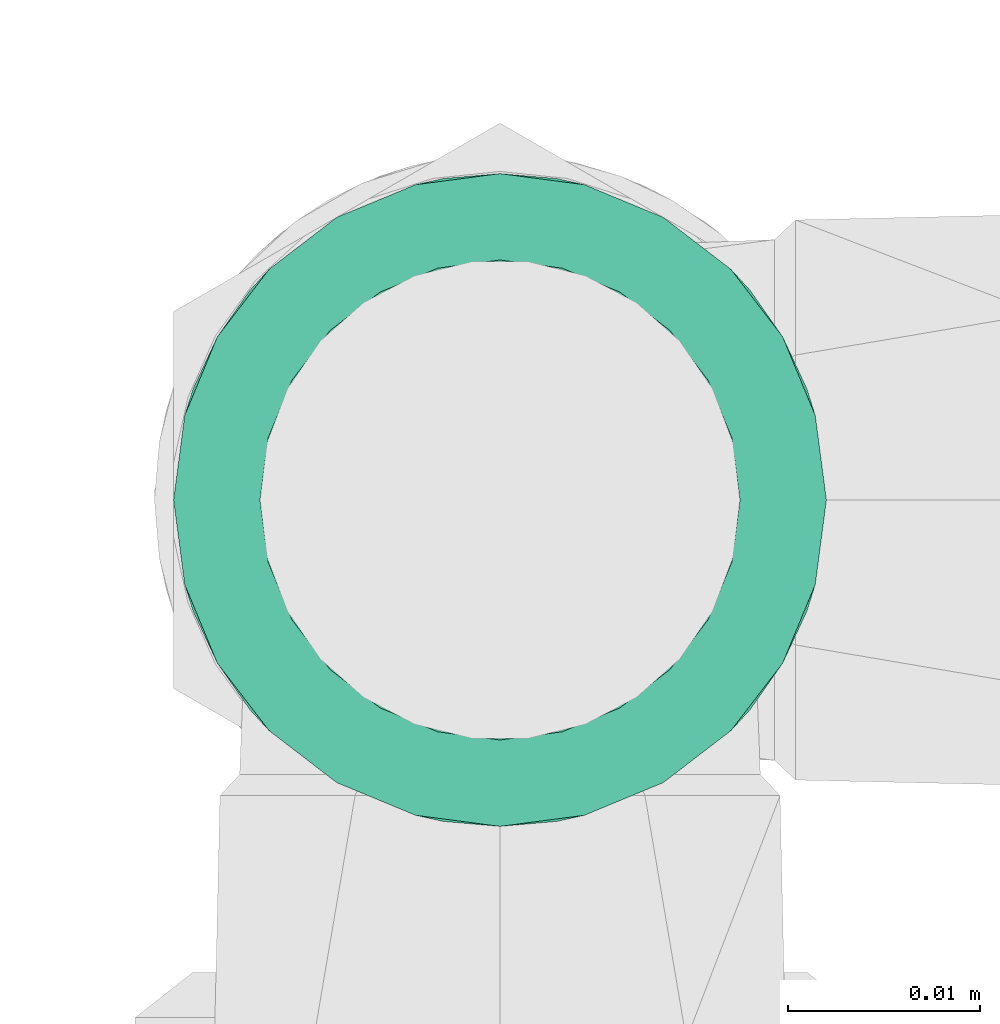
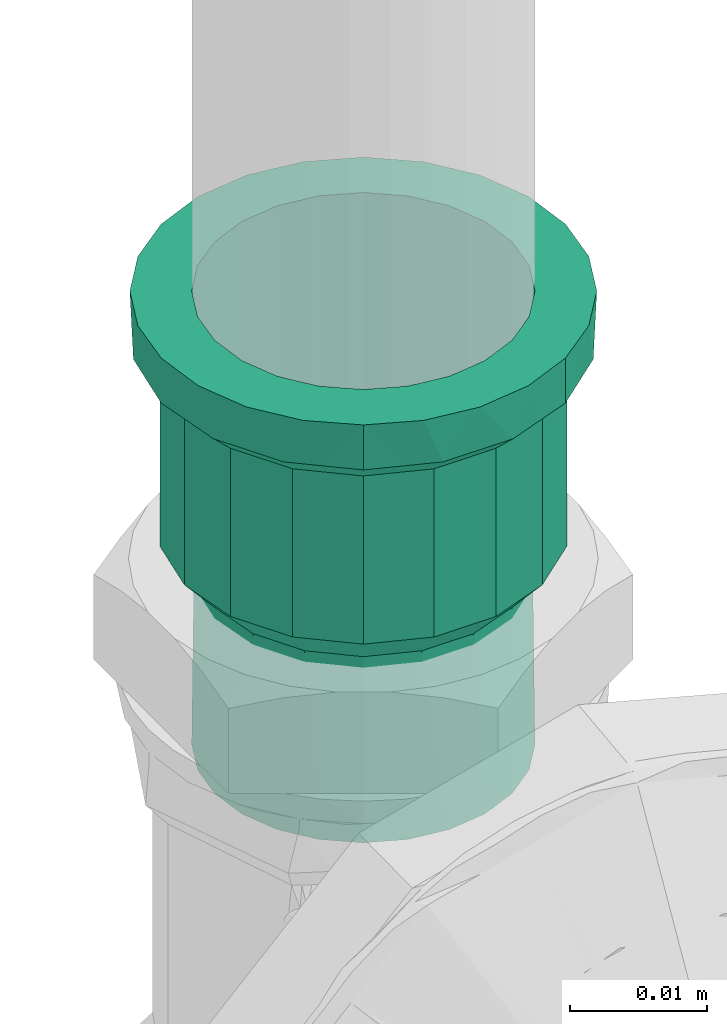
# One storey, part 345 of 589: 1 flow fitting.
"""IFC2X3 building model written with IfcOpenShell, lengths in millimetres."""

from ifc_helpers import new_model, entity, si_unit, converted_unit, derived_unit, direction, frame, origin, place, context, subcontext, project, spatial, faceted_brep, source, transform, mapped, material, type_object, type_shapes, element, save


model = new_model("IFC2X3")

# Units and contexts
model_context = context("Model", 3, precision=0.01, world=origin(), true_north=direction((6.123031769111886e-17, 1.0)))
body_context = subcontext(model_context, "Body", "Model", "MODEL_VIEW")
ifc_project = project(units=[si_unit("LENGTHUNIT", "METRE", prefix="MILLI"), si_unit("AREAUNIT", "SQUARE_METRE"), si_unit("VOLUMEUNIT", "CUBIC_METRE"), converted_unit("PLANEANGLEUNIT", "DEGREE", entity("IfcRatioMeasure", 0.017453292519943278), si_unit("PLANEANGLEUNIT", "RADIAN"), dimensions=[0, 0, 0, 0, 0, 0, 0]), si_unit("MASSUNIT", "GRAM", prefix="KILO"), derived_unit("MASSDENSITYUNIT", [(si_unit("MASSUNIT", "GRAM", prefix="KILO"), 1), (si_unit("LENGTHUNIT", "METRE"), -3)]), derived_unit("IONCONCENTRATIONUNIT", [(si_unit("MASSUNIT", "GRAM", prefix="KILO"), 1), (si_unit("LENGTHUNIT", "METRE"), -3)]), derived_unit("MOMENTOFINERTIAUNIT", [(si_unit("LENGTHUNIT", "METRE"), 4)]), si_unit("TIMEUNIT", "SECOND"), si_unit("FREQUENCYUNIT", "HERTZ"), si_unit("THERMODYNAMICTEMPERATUREUNIT", "DEGREE_CELSIUS"), derived_unit("THERMALTRANSMITTANCEUNIT", [(si_unit("MASSUNIT", "GRAM", prefix="KILO"), 1), (si_unit("THERMODYNAMICTEMPERATUREUNIT", "KELVIN"), -1), (si_unit("TIMEUNIT", "SECOND"), -3)]), derived_unit("THERMALCONDUCTANCEUNIT", [(si_unit("MASSUNIT", "GRAM", prefix="KILO"), 1), (si_unit("THERMODYNAMICTEMPERATUREUNIT", "KELVIN"), -1), (si_unit("TIMEUNIT", "SECOND"), -3), (si_unit("LENGTHUNIT", "METRE"), 1)]), derived_unit("VOLUMETRICFLOWRATEUNIT", [(si_unit("LENGTHUNIT", "METRE"), 3), (si_unit("TIMEUNIT", "SECOND"), -1)]), derived_unit("MASSFLOWRATEUNIT", [(si_unit("MASSUNIT", "GRAM", prefix="KILO"), 1), (si_unit("TIMEUNIT", "SECOND"), -1)]), derived_unit("ROTATIONALFREQUENCYUNIT", [(si_unit("TIMEUNIT", "SECOND"), -1)]), si_unit("ELECTRICCURRENTUNIT", "AMPERE"), si_unit("ELECTRICVOLTAGEUNIT", "VOLT"), si_unit("POWERUNIT", "WATT"), si_unit("FORCEUNIT", "NEWTON", prefix="KILO"), si_unit("ILLUMINANCEUNIT", "LUX"), si_unit("LUMINOUSFLUXUNIT", "LUMEN"), si_unit("LUMINOUSINTENSITYUNIT", "CANDELA"), derived_unit("USERDEFINED", [(si_unit("MASSUNIT", "GRAM", prefix="KILO"), -1), (si_unit("LENGTHUNIT", "METRE"), -2), (si_unit("TIMEUNIT", "SECOND"), 3), (si_unit("LUMINOUSFLUXUNIT", "LUMEN"), 1)]), derived_unit("USERDEFINED", [(si_unit("MASSUNIT", "GRAM", prefix="KILO"), 1), (si_unit("TIMEUNIT", "SECOND"), -3), (si_unit("LENGTHUNIT", "METRE"), 3), (si_unit("ELECTRICCURRENTUNIT", "AMPERE"), -2)]), derived_unit("SOUNDPOWERUNIT", [(si_unit("MASSUNIT", "GRAM", prefix="KILO"), 1), (si_unit("TIMEUNIT", "SECOND"), -3), (si_unit("LENGTHUNIT", "METRE"), 2)]), derived_unit("SOUNDPRESSUREUNIT", [(si_unit("MASSUNIT", "GRAM", prefix="KILO"), 1), (si_unit("LENGTHUNIT", "METRE"), -1), (si_unit("TIMEUNIT", "SECOND"), -2)]), derived_unit("LINEARVELOCITYUNIT", [(si_unit("LENGTHUNIT", "METRE"), 1), (si_unit("TIMEUNIT", "SECOND"), -1)]), si_unit("PRESSUREUNIT", "PASCAL"), derived_unit("USERDEFINED", [(si_unit("MASSUNIT", "GRAM", prefix="KILO"), 1), (si_unit("LENGTHUNIT", "METRE"), -2), (si_unit("TIMEUNIT", "SECOND"), -2)]), derived_unit("LINEARFORCEUNIT", [(si_unit("MASSUNIT", "GRAM", prefix="KILO"), 1), (si_unit("TIMEUNIT", "SECOND"), -2)]), derived_unit("PLANARFORCEUNIT", [(si_unit("MASSUNIT", "GRAM", prefix="KILO"), 1), (si_unit("LENGTHUNIT", "METRE"), -1), (si_unit("TIMEUNIT", "SECOND"), -2)]), derived_unit("SPECIFICHEATCAPACITYUNIT", [(si_unit("THERMODYNAMICTEMPERATUREUNIT", "KELVIN"), -1), (si_unit("LENGTHUNIT", "METRE"), 2), (si_unit("TIMEUNIT", "SECOND"), -2)]), derived_unit("HEATINGVALUEUNIT", [(si_unit("LENGTHUNIT", "METRE"), 2), (si_unit("TIMEUNIT", "SECOND"), -2)]), derived_unit("VAPORPERMEABILITYUNIT", [(si_unit("LENGTHUNIT", "METRE"), -1), (si_unit("TIMEUNIT", "SECOND"), 1)]), derived_unit("DYNAMICVISCOSITYUNIT", [(si_unit("MASSUNIT", "GRAM", prefix="KILO"), 1), (si_unit("TIMEUNIT", "SECOND"), -1), (si_unit("LENGTHUNIT", "METRE"), -1)]), derived_unit("THERMALEXPANSIONCOEFFICIENTUNIT", [(si_unit("THERMODYNAMICTEMPERATUREUNIT", "KELVIN"), -1)]), derived_unit("MODULUSOFELASTICITYUNIT", [(si_unit("MASSUNIT", "GRAM", prefix="KILO"), 1), (si_unit("LENGTHUNIT", "METRE"), -1), (si_unit("TIMEUNIT", "SECOND"), -2)]), derived_unit("ISOTHERMALMOISTURECAPACITYUNIT", [(si_unit("LENGTHUNIT", "METRE"), 3), (si_unit("MASSUNIT", "GRAM", prefix="KILO"), -1)]), derived_unit("MOISTUREDIFFUSIVITYUNIT", [(si_unit("TIMEUNIT", "SECOND"), -1), (si_unit("LENGTHUNIT", "METRE"), 2)])], contexts=[model_context])

# Site, building, storey
site_placement = place(None, origin())
site = spatial("IfcSite", under=ifc_project, at=site_placement, Name="Default", CompositionType="ELEMENT")
building_placement = place(site_placement, origin())
building = spatial("IfcBuilding", under=site, at=building_placement, CompositionType="ELEMENT")
storey_placement = place(building_placement, frame((0.0, 0.0, 100.0)))
storey = spatial("IfcBuildingStorey", under=building, at=storey_placement, Name="TÉRREO", CompositionType="ELEMENT", Elevation=100.0)

# Flow fitting
ifc_material = material(Name="PVC Marrom")
pipe_fitting_type = type_object("IfcPipeFittingType", Name="PVC Marrom Soldável_Adaptador Curto com Bolsa e Rosca Aninhado_Rodrigo MEP:Adaptador", PredefinedType="NOTDEFINED", material=ifc_material)
shared_shape = source(origin(), body_context, "Body", "Brep", [
    faceted_brep([(0.0, -8.500000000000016, -14.72243186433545), (0.0, -12.020815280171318, -12.0208152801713), (0.0, -6.2499999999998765, -10.825317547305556), (0.0, -3.2352380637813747, -12.07407282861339), (0.0, -4.399923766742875, -16.420739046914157), (0.0, -8.838834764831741, -8.83883476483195), (0.0, -14.722431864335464, -8.499999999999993), (0.0, -10.825317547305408, -6.250000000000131), (0.0, -12.074072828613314, -3.2352380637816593), (0.0, -16.42073904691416, -4.399923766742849), (0.0, -12.5, 0.0), (0.0, -17.0, 0.0), (0.0, -12.074072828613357, 3.2352380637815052), (0.0, -16.420739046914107, 4.399923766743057), (0.0, -10.825317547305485, 6.2499999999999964), (0.0, -14.722431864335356, 8.500000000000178), (0.0, -8.83883476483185, 8.838834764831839), (0.0, -12.020815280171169, 12.020815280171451), (0.0, -6.250000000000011, 10.82531754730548), (0.0, -8.499999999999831, 14.722431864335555), (0.0, -3.2352380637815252, 12.07407282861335), (0.0, -4.39992376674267, 16.42073904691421), (0.0, 0.0, 12.5), (0.0, 0.0, 17.0), (0.0, 3.2352380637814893, 12.07407282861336), (0.0, 4.399923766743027, 16.420739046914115), (0.0, 6.24999999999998, 10.825317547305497), (0.0, 8.500000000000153, 14.722431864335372), (0.0, 8.838834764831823, 8.838834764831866), (0.0, 12.020815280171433, 12.020815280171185), (0.0, 10.82531754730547, 6.250000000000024), (0.0, 14.722431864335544, 8.499999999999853), (0.0, 16.42073904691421, 4.399923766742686), (0.0, 12.074072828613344, 3.2352380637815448), (0.0, 17.0, 0.0), (0.0, 12.5, 0.0), (0.0, 16.42073904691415, -4.399923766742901), (0.0, 12.074072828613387, -3.235238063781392), (0.0, 14.722431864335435, -8.500000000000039), (0.0, 10.82531754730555, -6.249999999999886), (0.0, 12.02081528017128, -12.020815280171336), (0.0, 8.838834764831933, -8.838834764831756), (0.0, 8.499999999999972, -14.722431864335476), (0.0, 6.250000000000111, -10.825317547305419), (0.0, 4.399923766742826, -16.42073904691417), (0.0, 3.235238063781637, -12.074072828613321), (0.0, 0.0, -17.0), (0.0, 0.0, -12.5), (4.0, 15.974612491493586, 5.8147876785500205), (4.0, 16.487306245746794, 2.9073938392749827), (4.0, 10.760457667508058, 12.825628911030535), (4.0, 13.022146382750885, 10.928115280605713), (4.0, 14.498379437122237, 8.371451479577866), (4.0, 5.724460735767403, 15.732601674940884), (4.0, 2.9501525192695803, 16.742060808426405), (4.0, 16.599682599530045, 2.2701277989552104), (4.0, 17.0, 0.0), (4.0, 8.498768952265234, 14.723142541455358), (4.0, -8.502461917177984, 14.721010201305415), (4.0, -5.728407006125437, 15.731165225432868), (4.0, -2.954352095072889, 16.74132024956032), (4.0, -13.02488724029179, 10.924848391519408), (4.0, -10.763674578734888, 12.82292929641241), (4.0, -17.0, 0.0), (4.0, -15.976070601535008, 5.8107803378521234), (4.0, -14.5004789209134, 8.367814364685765), (4.0, -0.002099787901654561, 16.741690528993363), (4.0, -15.97607060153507, -5.810780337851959), (4.0, -10.763674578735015, -12.822929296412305), (4.0, -13.024887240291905, -10.92484839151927), (4.0, -14.500478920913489, -8.367814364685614), (4.0, -5.728407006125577, -15.731165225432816), (4.0, -2.9543520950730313, -16.741320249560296), (4.0, -8.502461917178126, -14.721010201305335), (4.0, 16.487306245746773, -2.907393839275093), (4.0, 8.498768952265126, -14.72314254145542), (4.0, 5.724460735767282, -15.732601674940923), (4.0, 2.950152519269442, -16.74206080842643), (4.0, 13.022146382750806, -10.928115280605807), (4.0, 10.760457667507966, -12.825628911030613), (4.0, 15.974612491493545, -5.814787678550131), (4.0, 14.498379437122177, -8.371451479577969), (4.0, -0.002099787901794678, -16.741690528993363), (4.0, 16.599682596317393, -2.270127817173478), (20.85, 14.535973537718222, 2.9149513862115), (20.85, 14.596115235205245, 2.5738986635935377), (20.850000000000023, 15.05, 0.0), (5.900000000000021, 15.05, 0.0), (5.900000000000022, 14.59611523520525, 2.5738986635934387), (5.900000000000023, 14.142230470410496, 5.147797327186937), (20.84999999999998, 14.142230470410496, 5.147797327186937), (20.849999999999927, 9.52616987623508, 11.354453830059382), (20.84999999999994, 11.528429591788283, 9.674596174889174), (5.900000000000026, 11.528429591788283, 9.674596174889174), (5.900000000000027, 9.526169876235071, 11.354453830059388), (5.900000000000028, 7.523910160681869, 13.034311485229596), (20.84999999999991, 7.523910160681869, 13.034311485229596), (20.849999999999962, 12.835330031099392, 7.411196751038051), (5.900000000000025, 12.83533003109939, 7.411196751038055), (20.849999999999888, 2.6117526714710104, 14.821647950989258), (20.849999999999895, 5.067831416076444, 13.927979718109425), (5.900000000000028, 5.067831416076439, 13.927979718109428), (5.900000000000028, 2.6117526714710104, 14.821647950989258), (20.849999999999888, -2.61547053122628, 14.820992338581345), (20.849999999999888, -0.0018589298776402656, 14.821320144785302), (5.900000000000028, -0.0018589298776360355, 14.8213201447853), (5.900000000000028, -2.615470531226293, 14.820992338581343), (20.849999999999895, -5.0713250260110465, 13.926708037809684), (5.900000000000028, -5.071325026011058, 13.92670803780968), (5.900000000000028, -7.527179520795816, 13.032423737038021), (20.849999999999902, -7.527179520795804, 13.032423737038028), (5.900000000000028, -9.52901778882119, 11.35206387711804), (5.900000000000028, -11.530856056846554, 9.671704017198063), (20.84999999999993, -11.530856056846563, 9.671704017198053), (20.849999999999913, -9.529017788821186, 11.352063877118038), (20.849999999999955, -12.837188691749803, 7.407976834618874), (5.900000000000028, -12.837188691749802, 7.407976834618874), (5.900000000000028, -14.143521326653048, 5.144249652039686), (20.849999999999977, -14.143521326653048, 5.144249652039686), (5.900000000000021, -15.05, 0.0), (20.850000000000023, -15.05, 0.0), (20.85000000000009, -14.143521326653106, -5.144249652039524), (5.900000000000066, -14.143521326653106, -5.144249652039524), (20.850000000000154, -7.527179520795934, -13.032423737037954), (20.85000000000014, -9.529017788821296, -11.352063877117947), (20.85000000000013, -11.530856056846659, -9.67170401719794), (5.900000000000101, -11.530856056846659, -9.67170401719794), (5.900000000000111, -9.529017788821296, -11.352063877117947), (5.900000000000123, -7.527179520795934, -13.032423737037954), (5.90000000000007, 12.835330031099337, -7.411196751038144), (5.900000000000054, 14.142230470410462, -5.147797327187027), (20.850000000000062, 14.142230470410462, -5.147797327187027), (20.850000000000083, 12.835330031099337, -7.411196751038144), (20.850000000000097, 11.528429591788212, -9.67459617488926), (5.900000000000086, 11.528429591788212, -9.67459617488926), (5.90000000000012, 5.067831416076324, -13.927979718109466), (5.900000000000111, 7.523910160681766, -13.034311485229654), (20.850000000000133, 7.523910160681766, -13.034311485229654), (20.85000000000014, 5.067831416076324, -13.927979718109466), (20.850000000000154, 2.6117526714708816, -14.821647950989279), (5.900000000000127, 2.6117526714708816, -14.821647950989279), (20.850000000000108, -12.837188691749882, -7.40797683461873), (5.900000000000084, -12.837188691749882, -7.407976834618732), (20.85000000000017, -2.6154705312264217, -14.82099233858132), (20.850000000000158, -5.071325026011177, -13.926708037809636), (5.900000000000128, -5.071325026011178, -13.926708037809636), (5.900000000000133, -2.6154705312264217, -14.82099233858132), (5.900000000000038, 14.596115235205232, -2.573898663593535), (20.85000000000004, 14.667751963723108, -2.1676596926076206), (20.850000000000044, 14.535973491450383, -2.91495164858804), (5.900000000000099, 9.526169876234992, -11.354453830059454), (20.850000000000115, 9.52616987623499, -11.354453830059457), (20.850000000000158, -0.0018589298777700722, -14.821320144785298), (5.900000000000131, -0.0018589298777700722, -14.821320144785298), (40.29999999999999, 0.0, -12.5), (40.29999999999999, 3.2352380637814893, -12.07407282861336), (40.29999999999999, 6.24999999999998, -10.825317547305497), (40.29999999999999, 8.838834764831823, -8.838834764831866), (40.29999999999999, 10.825317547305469, -6.2500000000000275), (40.29999999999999, 12.074072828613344, -3.2352380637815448), (40.29999999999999, 12.5, 0.0), (40.29999999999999, 12.074072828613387, 3.235238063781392), (40.29999999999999, 10.825317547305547, 6.249999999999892), (40.29999999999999, 8.838834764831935, 8.838834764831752), (40.29999999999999, 6.250000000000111, 10.825317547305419), (40.29999999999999, 3.235238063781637, 12.074072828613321), (40.29999999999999, 0.0, 12.5), (40.29999999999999, -3.2352380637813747, 12.07407282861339), (40.29999999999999, -6.2499999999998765, 10.825317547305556), (40.29999999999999, -8.838834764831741, 8.83883476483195), (40.29999999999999, -10.825317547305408, 6.250000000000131), (40.29999999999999, -12.074072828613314, 3.2352380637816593), (40.29999999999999, -12.5, 0.0), (40.29999999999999, -12.074072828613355, -3.2352380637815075), (40.29999999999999, -10.825317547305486, -6.249999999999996), (40.29999999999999, -8.83883476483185, -8.838834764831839), (40.29999999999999, -6.250000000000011, -10.82531754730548), (40.29999999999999, -3.2352380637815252, -12.07407282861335), (23.749999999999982, 12.5, 0.0), (23.74999999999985, 9.57510763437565, 8.035378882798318), (23.749999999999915, 11.746038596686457, 4.275579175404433), (23.749999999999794, 6.249094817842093, 10.825840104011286), (23.74999999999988, 10.66057311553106, 6.155479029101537), (23.74999999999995, 12.182518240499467, 1.8003818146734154), (23.74999999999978, 4.209162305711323, 11.56808946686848), (23.74999999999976, 2.1692297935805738, 12.310338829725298), (23.74999999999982, 7.912101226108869, 9.430609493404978), (23.749999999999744, -2.1723177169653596, 12.309794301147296), (23.749999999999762, -6.251810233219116, 10.824272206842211), (23.749999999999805, -9.577122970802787, 8.032976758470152), (23.749999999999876, -11.747110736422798, 4.272632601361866), (23.749999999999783, -7.9144666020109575, 9.428624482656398), (23.74999999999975, -4.212063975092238, 11.56703325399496), (23.749999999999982, -12.5, 0.0), (23.749999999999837, -10.662116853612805, 6.15280467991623), (23.74999999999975, -0.0015439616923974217, 12.31006656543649), (23.750000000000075, -9.577122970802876, -8.032976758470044), (23.75000000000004, -11.747110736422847, -4.272632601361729), (23.750000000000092, -6.2518102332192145, -10.824272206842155), (23.750000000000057, -10.662116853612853, -6.152804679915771), (23.7500000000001, -4.212063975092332, -11.56703325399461), (23.7500000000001, -2.1723177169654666, -12.309794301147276), (23.75000000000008, -7.914466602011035, -9.428624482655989), (23.750000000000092, 2.1692297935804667, -12.310338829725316), (23.750000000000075, 6.249094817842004, -10.82584010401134), (23.750000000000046, 9.575107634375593, -8.035378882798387), (23.750000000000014, 11.74603859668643, -4.275579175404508), (23.750000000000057, 7.912101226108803, -9.430609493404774), (23.75000000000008, 4.209162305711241, -11.56808946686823), (23.749999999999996, 12.123019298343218, -2.1377895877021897), (23.750000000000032, 10.660573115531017, -6.155479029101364), (23.750000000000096, -0.0015439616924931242, -12.310066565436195), (5.900000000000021, 12.07407282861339, -3.2352380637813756), (20.850000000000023, 12.07407282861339, -3.2352380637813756), (20.850000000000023, 12.5, 0.0), (5.900000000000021, 12.5, 0.0), (4.0, 12.5, 0.0), (4.0, 12.07407282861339, -3.2352380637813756), (5.900000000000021, 10.825317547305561, -6.249999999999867), (20.850000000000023, 10.825317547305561, -6.249999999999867), (4.0, 10.825317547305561, -6.249999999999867), (20.850000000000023, 6.250000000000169, -10.825317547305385), (20.850000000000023, 8.838834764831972, -8.838834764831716), (5.900000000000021, 8.838834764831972, -8.838834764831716), (4.0, 8.838834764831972, -8.838834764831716), (4.0, 6.250000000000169, -10.825317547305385), (5.900000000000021, 6.250000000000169, -10.825317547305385), (20.850000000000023, 3.235238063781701, -12.074072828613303), (4.0, 3.235238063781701, -12.074072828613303), (5.900000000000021, 3.235238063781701, -12.074072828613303), (20.850000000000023, 0.0, -12.5), (4.0, 0.0, -12.5), (5.900000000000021, 0.0, -12.5), (5.900000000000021, -3.2352380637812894, -12.074072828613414), (20.850000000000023, -3.2352380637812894, -12.074072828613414), (4.0, -3.2352380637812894, -12.074072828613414), (5.900000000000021, -6.24999999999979, -10.825317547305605), (20.850000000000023, -6.24999999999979, -10.825317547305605), (4.0, -6.24999999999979, -10.825317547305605), (20.850000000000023, -10.825317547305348, -6.250000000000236), (20.850000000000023, -8.838834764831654, -8.838834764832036), (5.900000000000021, -8.838834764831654, -8.838834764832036), (4.0, -8.838834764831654, -8.838834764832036), (4.0, -10.825317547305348, -6.250000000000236), (5.900000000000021, -10.825317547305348, -6.250000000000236), (20.850000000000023, -12.07407282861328, -3.2352380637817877), (4.0, -12.07407282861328, -3.2352380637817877), (5.900000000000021, -12.07407282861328, -3.2352380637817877), (20.850000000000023, -12.5, 0.0), (4.0, -12.5, 0.0), (5.900000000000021, -12.5, 0.0), (5.900000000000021, -12.074072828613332, 3.2352380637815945), (20.850000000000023, -12.074072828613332, 3.2352380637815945), (4.0, -12.074072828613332, 3.2352380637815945), (5.900000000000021, -10.82531754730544, 6.250000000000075), (20.850000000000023, -10.82531754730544, 6.250000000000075), (4.0, -10.82531754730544, 6.250000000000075), (20.850000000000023, -6.249999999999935, 10.825317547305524), (20.850000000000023, -8.838834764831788, 8.838834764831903), (5.900000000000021, -8.838834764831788, 8.838834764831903), (4.0, -8.838834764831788, 8.838834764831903), (4.0, -6.249999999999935, 10.825317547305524), (5.900000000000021, -6.249999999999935, 10.825317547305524), (20.850000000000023, -3.2352380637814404, 12.074072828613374), (4.0, -3.2352380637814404, 12.074072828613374), (5.900000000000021, -3.2352380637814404, 12.074072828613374), (20.850000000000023, 0.0, 12.5), (4.0, 0.0, 12.5), (5.900000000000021, 0.0, 12.5), (5.900000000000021, 3.2352380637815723, 12.074072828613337), (20.850000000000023, 3.2352380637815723, 12.074072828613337), (4.0, 3.2352380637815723, 12.074072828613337), (5.900000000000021, 6.250000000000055, 10.825317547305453), (20.850000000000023, 6.250000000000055, 10.825317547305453), (4.0, 6.250000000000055, 10.825317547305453), (20.850000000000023, 10.825317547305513, 6.249999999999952), (20.850000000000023, 8.838834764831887, 8.838834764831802), (5.900000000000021, 8.838834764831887, 8.838834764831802), (4.0, 8.838834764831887, 8.838834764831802), (4.0, 10.825317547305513, 6.249999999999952), (5.900000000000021, 10.825317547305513, 6.249999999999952), (20.850000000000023, 12.07407282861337, 3.2352380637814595), (4.0, 12.07407282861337, 3.2352380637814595), (5.900000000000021, 12.07407282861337, 3.2352380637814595)], [[[0, 1, 2]], [[0, 2, 3]], [[3, 4, 0]], [[2, 1, 5]], [[6, 5, 1]], [[7, 5, 6]], [[8, 7, 6]], [[8, 6, 9]], [[8, 9, 10]], [[10, 9, 11]], [[12, 10, 11]], [[12, 11, 13]], [[14, 12, 13]], [[14, 13, 15]], [[16, 14, 15]], [[15, 17, 16]], [[17, 18, 16]], [[18, 17, 19]], [[18, 19, 20]], [[21, 20, 19]], [[20, 21, 22]], [[22, 21, 23]], [[23, 24, 22]], [[24, 23, 25]], [[24, 25, 26]], [[27, 26, 25]], [[27, 28, 26]], [[27, 29, 28]], [[30, 28, 29]], [[31, 30, 29]], [[32, 30, 31]], [[33, 30, 32]], [[33, 32, 34]], [[34, 35, 33]], [[36, 35, 34]], [[36, 37, 35]], [[37, 36, 38]], [[39, 37, 38]], [[39, 38, 40]], [[39, 40, 41]], [[40, 42, 41]], [[41, 42, 43]], [[43, 42, 44]], [[44, 45, 43]], [[46, 45, 44]], [[4, 47, 46]], [[45, 46, 47]], [[4, 3, 47]], [[32, 48, 49]], [[50, 51, 29]], [[52, 48, 31, 51]], [[53, 25, 54]], [[48, 32, 31]], [[34, 49, 55, 56]], [[27, 57, 50]], [[29, 27, 50]], [[29, 51, 31]], [[19, 58, 59]], [[21, 19, 59]], [[53, 57, 27]], [[25, 53, 27]], [[54, 25, 23]], [[32, 49, 34]], [[59, 60, 21]], [[61, 62, 17]], [[63, 64, 13]], [[65, 61, 15, 64]], [[11, 63, 13]], [[17, 62, 19]], [[66, 54, 23, 60]], [[21, 60, 23]], [[61, 17, 15]], [[19, 62, 58]], [[13, 64, 15]], [[67, 63, 9]], [[68, 69, 1]], [[70, 67, 6, 69]], [[71, 4, 72]], [[67, 9, 6]], [[63, 11, 9]], [[4, 71, 0]], [[0, 73, 68]], [[1, 69, 6]], [[36, 34, 74]], [[42, 75, 76]], [[71, 73, 0]], [[44, 42, 76]], [[72, 4, 46]], [[1, 0, 68]], [[76, 77, 44]], [[78, 79, 40]], [[74, 80, 36]], [[81, 78, 38, 80]], [[36, 80, 38]], [[40, 79, 42]], [[82, 72, 46, 77]], [[44, 77, 46]], [[78, 40, 38]], [[42, 79, 75]], [[34, 56, 83, 74]], [[84, 85, 86, 87, 88, 89, 90]], [[91, 92, 93, 94, 95, 96]], [[92, 97, 90, 89, 98, 93]], [[99, 100, 96, 95, 101, 102]], [[103, 104, 99, 102, 105, 106]], [[107, 103, 106, 108, 109, 110]], [[111, 112, 113, 114, 110, 109]], [[115, 113, 112, 116, 117, 118]], [[117, 119, 120, 118]], [[121, 120, 119, 122]], [[123, 124, 125, 126, 127, 128]], [[129, 130, 131, 132, 133, 134]], [[135, 136, 137, 138, 139, 140]], [[125, 141, 121, 122, 142, 126]], [[143, 144, 123, 128, 145, 146]], [[131, 130, 147, 87, 86, 148, 149]], [[150, 134, 133, 151, 137, 136]], [[139, 152, 143, 146, 153, 140]], [[154, 155, 156, 157, 158, 159, 160, 161, 162, 163, 164, 165, 166, 167, 168, 169, 170, 171, 172, 173, 174, 175, 176, 177]], [[161, 160, 178]], [[163, 162, 179]], [[180, 162, 161]], [[181, 164, 163]], [[162, 180, 182, 179]], [[161, 178, 183, 180]], [[165, 181, 184, 185]], [[163, 179, 186, 181]], [[166, 165, 185]], [[165, 164, 181]], [[166, 187, 167]], [[167, 188, 168]], [[170, 169, 189]], [[188, 169, 168]], [[171, 170, 190]], [[169, 188, 191, 189]], [[167, 187, 192, 188]], [[190, 193, 171]], [[170, 189, 194, 190]], [[193, 172, 171]], [[166, 185, 195, 187]], [[173, 172, 193]], [[175, 174, 196]], [[197, 174, 173]], [[198, 176, 175]], [[174, 197, 199, 196]], [[173, 193, 197]], [[177, 198, 200, 201]], [[175, 196, 202, 198]], [[154, 177, 201]], [[177, 176, 198]], [[154, 203, 155]], [[155, 204, 156]], [[158, 157, 205]], [[204, 157, 156]], [[159, 158, 206]], [[157, 204, 207, 205]], [[155, 203, 208, 204]], [[159, 206, 209, 178]], [[158, 205, 210, 206]], [[178, 160, 159]], [[154, 201, 211, 203]], [[212, 213, 214, 215, 216, 35, 37, 217]], [[218, 219, 213, 212, 217, 37, 39, 220]], [[221, 222, 223, 224, 41, 43, 225, 226]], [[218, 220, 39, 41, 224, 223, 222, 219]], [[227, 221, 226, 225, 43, 45, 228, 229]], [[230, 227, 229, 228, 45, 47, 231, 232]], [[233, 234, 230, 232, 231, 47, 3, 235]], [[236, 237, 234, 233, 235, 3, 2, 238]], [[239, 240, 241, 242, 5, 7, 243, 244]], [[236, 238, 2, 5, 242, 241, 240, 237]], [[245, 239, 244, 243, 7, 8, 246, 247]], [[248, 245, 247, 246, 8, 10, 249, 250]], [[251, 252, 248, 250, 249, 10, 12, 253]], [[254, 255, 252, 251, 253, 12, 14, 256]], [[257, 258, 259, 260, 16, 18, 261, 262]], [[254, 256, 14, 16, 260, 259, 258, 255]], [[263, 257, 262, 261, 18, 20, 264, 265]], [[266, 263, 265, 264, 20, 22, 267, 268]], [[269, 270, 266, 268, 267, 22, 24, 271]], [[272, 273, 270, 269, 271, 24, 26, 274]], [[275, 276, 277, 278, 28, 30, 279, 280]], [[272, 274, 26, 28, 278, 277, 276, 273]], [[281, 275, 280, 279, 30, 33, 282, 283]], [[214, 281, 283, 282, 33, 35, 216, 215]], [[63, 67, 122, 119]], [[145, 128, 73, 71, 72, 146]], [[68, 73, 128, 127, 126, 69]], [[126, 142, 122, 67, 70, 69]], [[76, 75, 136, 135, 140, 77]], [[81, 80, 130, 129, 134, 78]], [[147, 130, 80, 74, 83, 56, 87]], [[140, 153, 146, 72, 82, 77]], [[134, 150, 136, 75, 79, 78]], [[89, 88, 87, 56, 55, 49, 48]], [[98, 89, 48, 52, 51, 93]], [[94, 93, 51, 50, 57, 95]], [[57, 53, 54, 102, 101, 95]], [[66, 60, 106, 105, 102, 54]], [[58, 109, 108, 106, 60, 59]], [[63, 119, 117, 64]], [[61, 65, 64, 117, 116, 112]], [[58, 62, 61, 112, 111, 109]], [[227, 230, 234, 237, 240, 239, 245, 248, 252, 255, 258, 257, 263, 266, 270, 273, 276, 275, 281, 214, 213, 219, 222, 221]], [[180, 183, 178, 86, 85, 84, 90]], [[100, 99, 185, 184, 181, 96]], [[181, 186, 179, 92, 91, 96]], [[179, 182, 180, 90, 97, 92]], [[104, 103, 187, 195, 185, 99]], [[115, 118, 190, 194, 189, 113]], [[107, 110, 188, 192, 187, 103]], [[118, 120, 193, 190]], [[189, 191, 188, 110, 114, 113]], [[120, 121, 197, 193]], [[200, 198, 123, 144, 143, 201]], [[124, 123, 198, 202, 196, 125]], [[196, 199, 197, 121, 141, 125]], [[138, 137, 204, 208, 203, 139]], [[132, 131, 206, 210, 205, 133]], [[209, 206, 131, 149, 148, 86, 178]], [[203, 211, 201, 143, 152, 139]], [[205, 207, 204, 137, 151, 133]]]),
])
type_shapes(pipe_fitting_type, [shared_shape])
flow_fitting_placement = place(storey_placement, frame((-7362.27295997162, -4322.12578222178, 2254.7500000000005), z_axis=(0.0, -1.0, 0.0), x_axis=(0.0, 0.0, -1.0)))
element("IfcFlowFitting", 1, at=flow_fitting_placement, inside=storey, type_object=pipe_fitting_type, material=ifc_material, Name="PVC Marrom Soldável_Adaptador Curto com Bolsa e Rosca Aninhado_Rodrigo MEP:Adaptador", ObjectType="PVC Marrom Soldável_Adaptador Curto com Bolsa e Rosca Aninhado_Rodrigo MEP:Adaptador", context=body_context, shape_type="MappedRepresentation", body=[
    mapped(shared_shape, transform((0.0, 0.0, 0.0), scale=1.0)),
])

save(model, "model.ifc")
